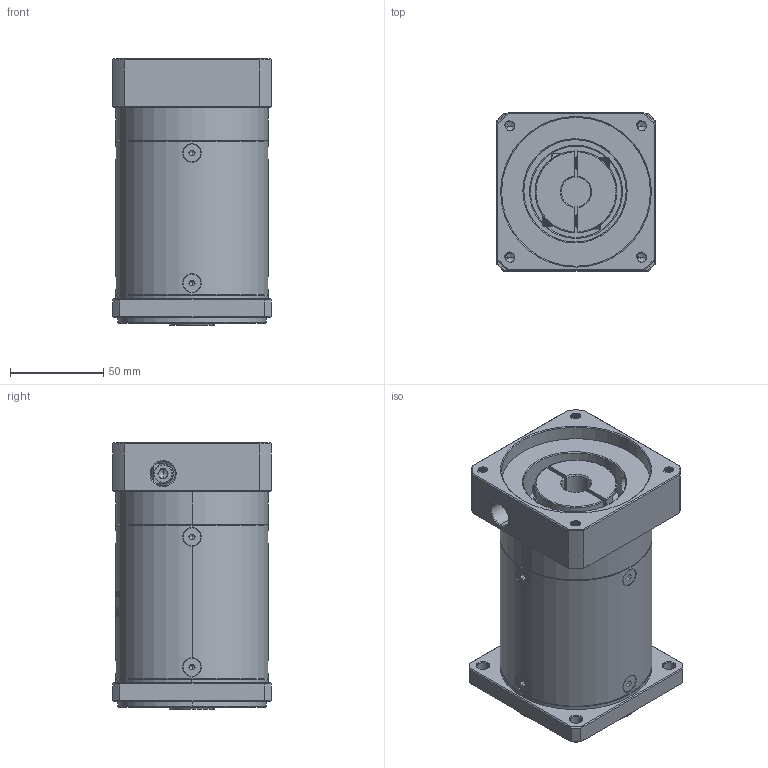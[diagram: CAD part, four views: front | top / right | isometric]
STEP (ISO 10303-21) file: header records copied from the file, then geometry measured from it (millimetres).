
FILE_DESCRIPTION (( 'STEP AP214' ), '1' );
FILE_NAME ('ZF80-K15-L3-16-80-100-M6.step', '2022-09-16T05:28:12', ( '' ), ( 'Microsoft' ), 'SwSTEP 2.0', 'SolidWorks 2016', '' );
FILE_SCHEMA (( 'AUTOMOTIVE_DESIGN' ));
Length unit declared in the file: millimetre
Products named in the file (1): ZF80-K15-L3-16-80-100-M6
Bounding box: 85 x 85 x 143 mm (x, y, z)
Volume: 725393.5 mm3; surface area: 97483.9 mm2
Topology: 13 solids, 13 shells, 1929 faces, 4989 edges, 3153 vertices
Faces by surface type: plane 889, cylinder 381, cone 332, bspline 310, torus 17
Entity records: 101477 total; most frequent: CARTESIAN_POINT 36637, ORIENTED_EDGE 9922, DIRECTION 7860, EDGE_CURVE 4961, VERTEX_POINT 3153, VECTOR 2718, LINE 2718, AXIS2_PLACEMENT_3D 2571
